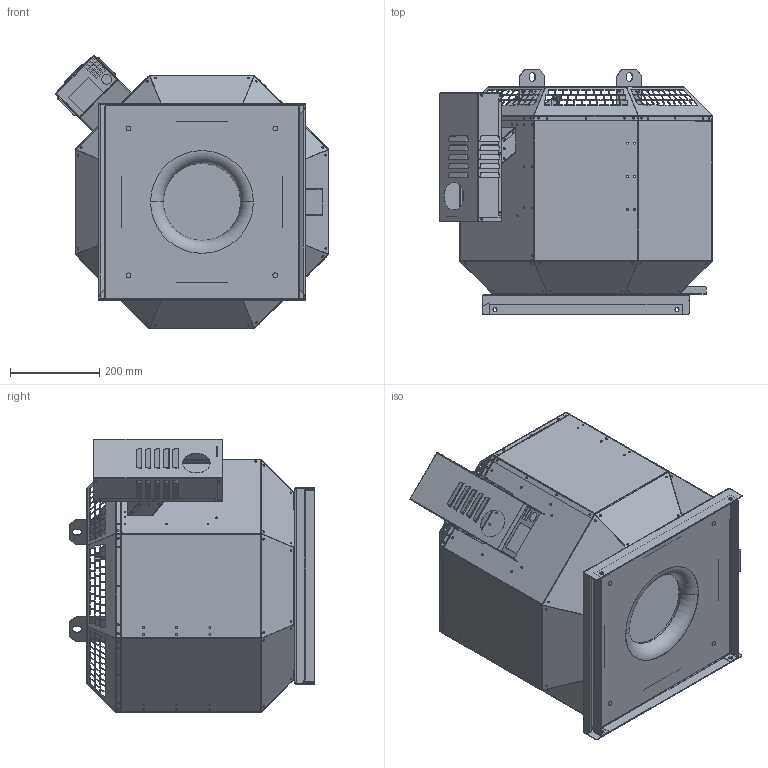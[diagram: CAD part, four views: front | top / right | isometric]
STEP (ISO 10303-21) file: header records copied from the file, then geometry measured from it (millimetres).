
FILE_DESCRIPTION (( 'STEP AP203' ), '1' );
FILE_NAME ('144877-01_DVN280D230_step.step', '2018-08-10T06:01:18', ( '' ), ( '' ), 'SwSTEP 2.0', 'SolidWorks 2017', '' );
FILE_SCHEMA (( 'CONFIG_CONTROL_DESIGN' ));
Length unit declared in the file: millimetre
Products named in the file (2): 144877-01_DVN280D230_step
Bounding box: 613.75 x 550.51 x 613.75 mm (x, y, z)
Surface area: 3107245.9 mm2 (no closed solid volume)
Topology: 0 solids, 51 shells, 1409 faces, 8211 edges, 6293 vertices
Faces by surface type: plane 1018, cylinder 315, bspline 72, torus 4
Entity records: 96889 total; most frequent: CARTESIAN_POINT 33349, DIRECTION 11746, ORIENTED_EDGE 11095, EDGE_CURVE 8211, LINE 6510, VECTOR 6510, VERTEX_POINT 6293, EDGE_LOOP 2922
